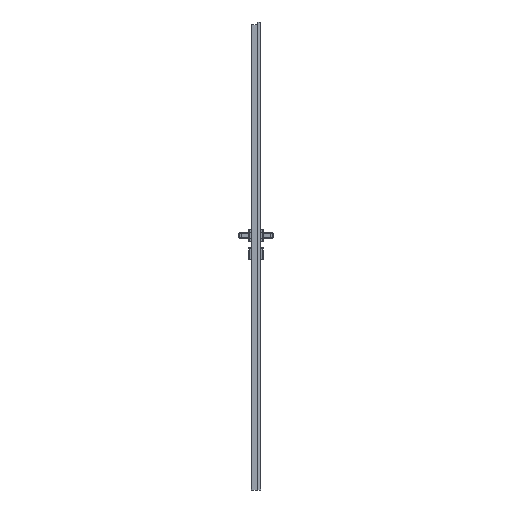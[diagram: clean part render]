
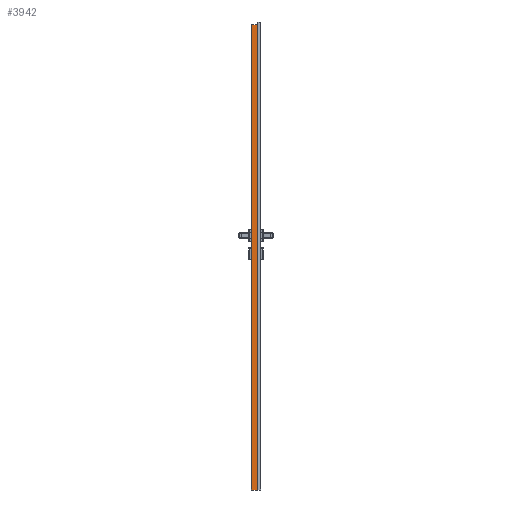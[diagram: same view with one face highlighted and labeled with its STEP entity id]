
A CAD part, left-side view. The second image highlights one B-rep face of the part: STEP entity #3942.
In plain terms, the highlighted planar face has unit normal (-1, 0, 0).
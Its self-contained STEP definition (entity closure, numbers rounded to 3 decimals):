
#3942=ADVANCED_FACE('',(#6228),#5195,.F.);
#5195=PLANE('',#27022);
#6228=FACE_OUTER_BOUND('',#7680,.T.);
#7680=EDGE_LOOP('',(#12244,#12245,#12246,#12247));
#12244=ORIENTED_EDGE('',*,*,#19621,.F.);
#12245=ORIENTED_EDGE('',*,*,#19622,.T.);
#12246=ORIENTED_EDGE('',*,*,#19623,.F.);
#12247=ORIENTED_EDGE('',*,*,#19624,.T.);
#16767=VERTEX_POINT('',#41297);
#16768=VERTEX_POINT('',#41298);
#16769=VERTEX_POINT('',#41300);
#16770=VERTEX_POINT('',#41302);
#19621=EDGE_CURVE('',#16767,#16768,#22770,.T.);
#19622=EDGE_CURVE('',#16767,#16769,#22771,.T.);
#19623=EDGE_CURVE('',#16770,#16769,#22772,.T.);
#19624=EDGE_CURVE('',#16770,#16768,#22773,.T.);
#22770=LINE('',#41296,#25194);
#22771=LINE('',#41299,#25195);
#22772=LINE('',#41301,#25196);
#22773=LINE('',#41303,#25197);
#25194=VECTOR('',#31517,1.);
#25195=VECTOR('',#31518,1.);
#25196=VECTOR('',#31519,1.);
#25197=VECTOR('',#31520,1.);
#27022=AXIS2_PLACEMENT_3D('',#41304,#31521,#31522);
#31517=DIRECTION('',(0.,0.,-1.));
#31518=DIRECTION('',(0.,1.,0.));
#31519=DIRECTION('',(0.,0.,1.));
#31520=DIRECTION('',(0.,-1.,0.));
#31521=DIRECTION('',(1.,0.,0.));
#31522=DIRECTION('',(0.,1.,0.));
#41296=CARTESIAN_POINT('',(-309.,-26.,2070.));
#41297=CARTESIAN_POINT('',(-309.,-26.,2017.));
#41298=CARTESIAN_POINT('',(-309.,-26.,0.));
#41299=CARTESIAN_POINT('',(-309.,0.15,2017.));
#41300=CARTESIAN_POINT('',(-309.,-0.85,2017.));
#41301=CARTESIAN_POINT('',(-309.,-0.85,0.));
#41302=CARTESIAN_POINT('',(-309.,-0.85,0.));
#41303=CARTESIAN_POINT('',(-309.,0.15,0.));
#41304=CARTESIAN_POINT('',(-309.,0.15,2070.));
